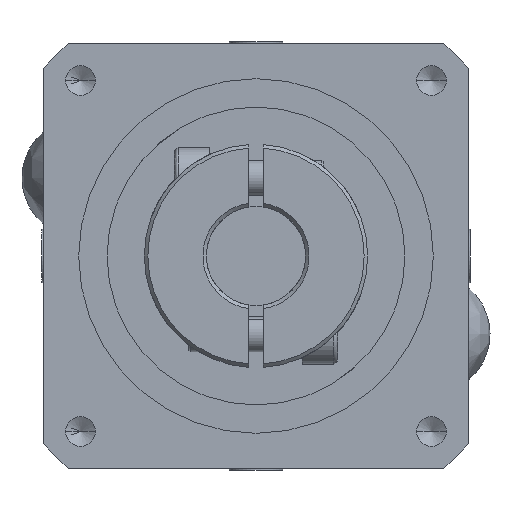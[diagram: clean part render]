
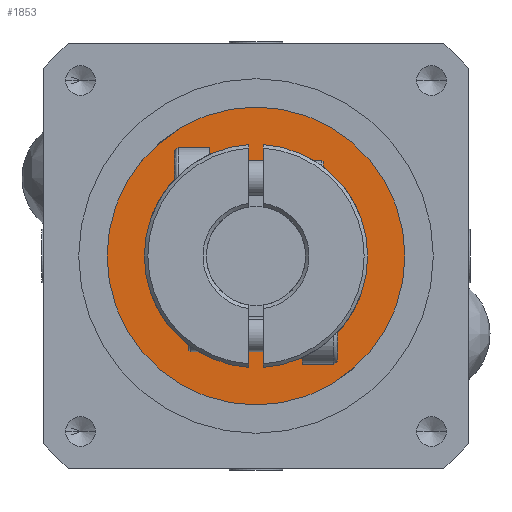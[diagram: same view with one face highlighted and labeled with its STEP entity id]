
A CAD part, left-side view. The second image highlights one B-rep face of the part: STEP entity #1853.
In plain terms, the highlighted planar face has unit normal (-1, 0, 0) as drawn and (0, 0, 1) by its records, which use the part's own axes.
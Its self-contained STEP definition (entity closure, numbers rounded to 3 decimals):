
#175 = EDGE_CURVE ( 'NONE', #1547, #7408, #8917, .T. ) ;
#397 = ORIENTED_EDGE ( 'NONE', *, *, #7112, .T. ) ;
#1547 = VERTEX_POINT ( 'NONE', #2080 ) ;
#1711 = AXIS2_PLACEMENT_3D ( 'NONE', #3845, #3250, #3949 ) ;
#1853 = ADVANCED_FACE ( 'NONE', ( #8978 ), #5961, .T. ) ;
#2080 = CARTESIAN_POINT ( 'NONE',  ( -30., 0., 12.5 ) ) ;
#2317 = ORIENTED_EDGE ( 'NONE', *, *, #175, .T. ) ;
#2387 = DIRECTION ( 'NONE',  ( 0., 0., 1. ) ) ;
#2405 = EDGE_LOOP ( 'NONE', ( #2317, #397 ) ) ;
#3109 = CARTESIAN_POINT ( 'NONE',  ( 0., 0., 12.5 ) ) ;
#3204 = DIRECTION ( 'NONE',  ( 1., 0., 0. ) ) ;
#3250 = DIRECTION ( 'NONE',  ( 0., 0., 1. ) ) ;
#3470 = AXIS2_PLACEMENT_3D ( 'NONE', #6509, #2387, #7999 ) ;
#3845 = CARTESIAN_POINT ( 'NONE',  ( 0., 0., 12.5 ) ) ;
#3949 = DIRECTION ( 'NONE',  ( -1., 0., 0. ) ) ;
#4461 = AXIS2_PLACEMENT_3D ( 'NONE', #3109, #6665, #3204 ) ;
#4850 = CIRCLE ( 'NONE', #1711, 30. ) ;
#5119 = CARTESIAN_POINT ( 'NONE',  ( 30., 0., 12.5 ) ) ;
#5961 = PLANE ( 'NONE',  #4461 ) ;
#6509 = CARTESIAN_POINT ( 'NONE',  ( 0., 0., 12.5 ) ) ;
#6665 = DIRECTION ( 'NONE',  ( 0., 0., 1. ) ) ;
#7112 = EDGE_CURVE ( 'NONE', #7408, #1547, #4850, .T. ) ;
#7408 = VERTEX_POINT ( 'NONE', #5119 ) ;
#7999 = DIRECTION ( 'NONE',  ( -1., 0., 0. ) ) ;
#8917 = CIRCLE ( 'NONE', #3470, 30. ) ;
#8978 = FACE_OUTER_BOUND ( 'NONE', #2405, .T. ) ;
